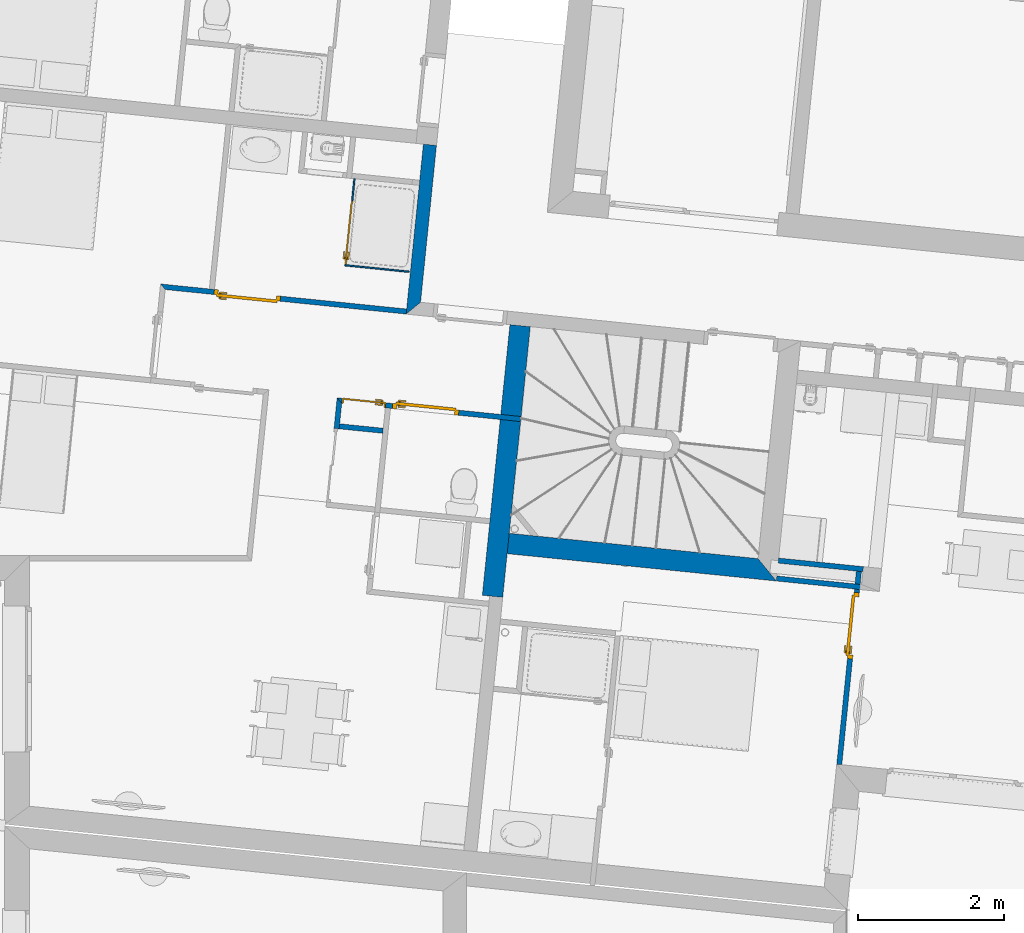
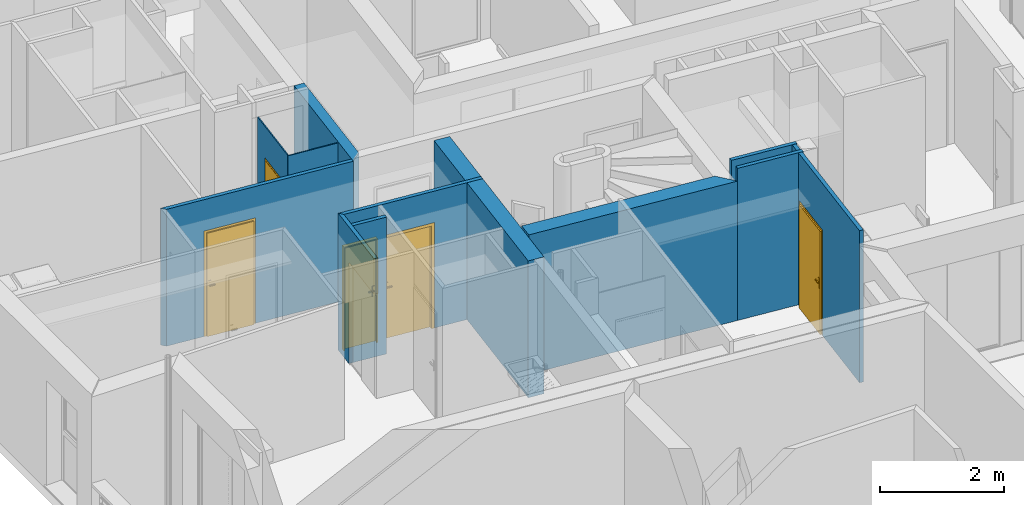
# One storey, part 64 of 171: 12 walls, 5 doors, 6 openings.
"""IFC2X3 building model written with IfcOpenShell, lengths in millimetres."""

from ifc_helpers import new_model, entity, si_unit, converted_unit, derived_unit, money_unit, direction, frame, origin_with_axes, origin_2d_with_axis, place, context, subcontext, project, spatial, polyline, rectangle, outline, extrude, faceted_brep, source, transform, mapped, material, layer, layer_set, layer_usage, type_object, element, fill, save


model = new_model("IFC2X3")

# Units and contexts
model_context = context("Model", 3, precision=0.01, world=origin_with_axes(), true_north=direction((0.0, 1.0)))
body_context = subcontext(model_context, "Body", "Model", "MODEL_VIEW")
ifc_project = project(units=[si_unit("LENGTHUNIT", "METRE", prefix="MILLI"), si_unit("AREAUNIT", "SQUARE_METRE"), si_unit("VOLUMEUNIT", "CUBIC_METRE"), converted_unit("PLANEANGLEUNIT", "DEGREE", entity("IfcPlaneAngleMeasure", 0.0174532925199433), si_unit("PLANEANGLEUNIT", "RADIAN"), dimensions=[0, 0, 0, 0, 0, 0, 0]), money_unit("USD"), converted_unit("TIMEUNIT", "Year", entity("IfcTimeMeasure", 31557600.0), si_unit("TIMEUNIT", "SECOND"), dimensions=[0, 0, 1, 0, 0, 0, 0]), si_unit("MASSUNIT", "GRAM", prefix="KILO"), si_unit("THERMODYNAMICTEMPERATUREUNIT", "DEGREE_CELSIUS"), si_unit("LUMINOUSINTENSITYUNIT", "LUMEN"), si_unit("ENERGYUNIT", "JOULE", prefix="MEGA"), derived_unit("THERMALCONDUCTANCEUNIT", [(si_unit("POWERUNIT", "WATT"), 1), (si_unit("LENGTHUNIT", "METRE"), -1), (si_unit("THERMODYNAMICTEMPERATUREUNIT", "KELVIN"), -1)]), derived_unit("SPECIFICHEATCAPACITYUNIT", [(si_unit("ENERGYUNIT", "JOULE"), 1), (si_unit("MASSUNIT", "GRAM", prefix="KILO"), -1), (si_unit("THERMODYNAMICTEMPERATUREUNIT", "KELVIN"), -1)]), derived_unit("MASSDENSITYUNIT", [(si_unit("MASSUNIT", "GRAM", prefix="KILO"), 1), (si_unit("VOLUMEUNIT", "CUBIC_METRE"), -1)])], contexts=[model_context])

# Site, building, storey
site_placement = place(None, origin_with_axes())
site = spatial("IfcSite", under=ifc_project, at=site_placement, Name="Site", CompositionType="ELEMENT")
building_placement = place(site_placement, origin_with_axes())
building = spatial("IfcBuilding", under=site, at=building_placement, Name="Bâtiment", CompositionType="ELEMENT")
storey_placement = place(building_placement, frame((0.0, 0.0, 3000.0), z_axis=(0.0, 0.0, 1.0), x_axis=(1.0, 0.0, 0.0)))
storey = spatial("IfcBuildingStorey", under=building, at=storey_placement, Name="rdc", CompositionType="ELEMENT", Elevation=3000.0)

# Wall
ifc_material_1 = material(Name="Hachure solide 268963992")
ifc_layer_1 = layer(ifc_material_1, 70.0, ventilated="UNKNOWN")
ifc_layer_set_1 = layer_set([ifc_layer_1], Name="Cloison 70 0826278243")
ifc_layer_usage_1 = layer_usage(ifc_layer_set_1, "AXIS2", "NEGATIVE", 0.0)
wall_type_1 = type_object("IfcWallType", Name="Cloison 70 0826278243 70", PredefinedType="NOTDEFINED")
wall_1_placement = place(storey_placement, frame((2229849.338123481, -617632.4873157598, 0.0), z_axis=(0.0, 0.0, 1.0), x_axis=(-0.9948733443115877, 0.1011287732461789, 0.0)))
element("IfcWallStandardCase", 1, at=wall_1_placement, inside=storey, type_object=wall_type_1, material=ifc_layer_usage_1, Name="Mur-121", context=body_context, shape_type="SweptSolid", body=[
    extrude(outline(polyline([(-1.13686837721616e-10, -70.00000000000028), (1164.857956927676, -70.00000000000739), (1164.857956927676, 0.0), (0.0, 0.0), (-1.13686837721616e-10, -70.00000000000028)])), origin_with_axes(), (0.0, 0.0, 1.0), 3000.0),
])

# Wall, opening
ifc_layer_usage_2 = layer_usage(ifc_layer_set_1, "AXIS2", "POSITIVE", -70.0)
wall_2_placement = place(storey_placement, frame((2222752.519479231, -615015.4801485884, 0.0), z_axis=(0.0, 0.0, 1.0), x_axis=(-0.1011032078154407, -0.9948759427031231, 0.0)))
wall_2 = element("IfcWallStandardCase", 2, at=wall_2_placement, inside=storey, type_object=wall_type_1, material=ifc_layer_usage_2, Name="Mur-149", context=body_context, shape_type="SweptSolid", body=[
    extrude(outline(polyline([(-1.003314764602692e-06, -69.99999999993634), (1408.251999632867, -69.99999999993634), (1408.251999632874, 1.13686837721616e-10), (69.99999999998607, 1.13686837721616e-10), (-1.003314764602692e-06, -69.99999999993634)])), origin_with_axes(), (0.0, 0.0, 1.0), 2700.0),
])
opening_1_placement = place(wall_2_placement, frame((926.5441917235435, 0.0, 0.0), z_axis=(0.0, 0.0, 1.0), x_axis=(1.0, 0.0, 0.0)))
element("IfcOpeningElement", 3, at=opening_1_placement, cuts=wall_2, Name="Por-254", context=body_context, shape_type="SweptSolid", body=[
    extrude(rectangle(XDim=1013.088383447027, YDim=2000.0, at=origin_2d_with_axis()), frame((0.0, -70.00000000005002, 1000.0), z_axis=(0.0, 1.0, 0.0), x_axis=(1.0, 0.0, 0.0)), (0.0, 0.0, -1.0), 70.0),
    extrude(rectangle(XDim=1013.088383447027, YDim=2000.0, at=origin_2d_with_axis()), frame((0.0, -69.99999999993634, 1000.0), z_axis=(0.0, -1.0, 0.0), x_axis=(1.0, 0.0, 0.0)), (0.0, 0.0, -1.0), 70.0),
])

# Wall, openings, doors
ifc_layer_usage_3 = layer_usage(ifc_layer_set_1, "AXIS2", "NEGATIVE", 70.0)
wall_3_placement = place(storey_placement, frame((2225199.940594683, -615264.1967475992, 0.0), z_axis=(0.0, 0.0, 1.0), x_axis=(-0.9948759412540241, 0.1011032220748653, 0.0)))
wall_3 = element("IfcWallStandardCase", 4, at=wall_3_placement, inside=storey, type_object=wall_type_1, material=ifc_layer_usage_3, Name="Mur-149", context=body_context, shape_type="SweptSolid", body=[
    extrude(outline(polyline([(0.0, 0.0), (2530.026435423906, 0.0), (2460.026434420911, 70.00000000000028), (0.0, 70.00000000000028), (0.0, 0.0)])), origin_with_axes(), (0.0, 0.0, 1.0), 2700.0),
])
opening_2_placement = place(wall_3_placement, frame((1309.999999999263, 0.0, 0.0), z_axis=(0.0, 0.0, 1.0), x_axis=(1.0, 0.0, 0.0)))
opening_2 = element("IfcOpeningElement", 5, at=opening_2_placement, cuts=wall_3, Name="Por-281", context=body_context, shape_type="SweptSolid", body=[
    extrude(rectangle(XDim=910.0000000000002, YDim=2080.0, at=origin_2d_with_axis()), frame((-1.13686837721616e-10, 69.99999999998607, 1040.0), z_axis=(0.0, -1.0, 0.0), x_axis=(-1.0, 0.0, 0.0)), (0.0, 0.0, 1.0), 140.0),
])
opening_3_placement = place(wall_3_placement, frame((2160.026437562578, 0.0, 0.0), z_axis=(0.0, 0.0, 1.0), x_axis=(1.0, 0.0, 0.0)))
opening_3 = element("IfcOpeningElement", 6, at=opening_3_placement, cuts=wall_3, Name="Por-274", context=body_context, shape_type="SweptSolid", body=[
    extrude(rectangle(XDim=600.0000000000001, YDim=2050.0, at=origin_2d_with_axis()), frame((0.0, 70.00000000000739, 1025.0), z_axis=(0.0, 1.0, 0.0), x_axis=(1.0, 0.0, 0.0)), (0.0, 0.0, -1.0), 140.0),
])
door_style = type_object("IfcDoorStyle", Name="Porte_1v", ConstructionType="NOTDEFINED", OperationType="NOTDEFINED", ParameterTakesPrecedence=False, Sizeable=False)
shared_shape_1 = source(origin_with_axes(), body_context, "Body", "Brep", [
    faceted_brep([(455.0, 0.0, 0.0), (415.0000000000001, 0.0, 0.0), (415.0000000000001, 0.0, 2040.0), (-415.0000000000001, 0.0, 2040.0), (-415.0000000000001, 0.0, 0.0), (-455.0, 0.0, 0.0), (-455.0, 0.0, 2080.0), (455.0, 0.0, 2080.0), (455.0, -70.0, 0.0), (400.0, -70.0, 0.0), (400.0, -15.0, 0.0), (415.0000000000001, -15.0, 0.0), (415.0000000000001, -15.0, 2040.0), (-415.0000000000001, -15.0, 2040.0), (-415.0000000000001, -15.0, 0.0), (-400.0, -15.0, 0.0), (-400.0, -70.0, 0.0), (-455.0, -70.0, 0.0), (-455.0, -70.0, 2080.0), (455.0, -70.0, 2080.0), (-400.0, -70.0, 2025.0), (400.0, -70.0, 2025.0), (400.0, -15.0, 2025.0), (-400.0, -15.0, 2025.0)], [[[0, 1, 2, 3, 4, 5, 6, 7]], [[0, 8, 9, 10, 11, 1]], [[1, 11, 12, 2]], [[2, 12, 13, 3]], [[3, 13, 14, 4]], [[5, 4, 14, 15, 16, 17]], [[18, 6, 5, 17]], [[19, 7, 6, 18]], [[8, 0, 7, 19]], [[9, 8, 19, 18, 17, 16, 20, 21]], [[10, 9, 21, 22]], [[11, 10, 22, 23, 15, 14, 13, 12]], [[23, 20, 16, 15]], [[22, 21, 20, 23]]]),
    faceted_brep([(-350.0000000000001, -15.0, 900.0), (-390.0, -15.0, 900.0), (-390.0, -15.0, 1100.0), (-350.0000000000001, -15.0, 1100.0), (-350.0000000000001, -25.0, 900.0), (-390.0, -25.0, 900.0), (-390.0, -25.0, 1100.0), (-350.0000000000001, -25.0, 1100.0)], [[[0, 1, 2, 3]], [[1, 0, 4, 5]], [[2, 1, 5, 6]], [[3, 2, 6, 7]], [[0, 3, 7, 4]], [[5, 4, 7, 6]]]),
    faceted_brep([(-280.0, -25.0, 1000.0), (-380.0, -25.0, 1000.0), (-380.0, -25.0, 1020.0), (-280.0, -25.0, 1020.0), (-280.0, -45.0, 1000.0), (-380.0, -45.0, 1000.0), (-380.0, -45.0, 1020.0), (-280.0, -45.0, 1020.0)], [[[0, 1, 2, 3]], [[1, 0, 4, 5]], [[2, 1, 5, 6]], [[3, 2, 6, 7]], [[0, 3, 7, 4]], [[5, 4, 7, 6]]]),
    faceted_brep([(-350.0000000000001, 35.0, 900.0), (-390.0, 35.0, 900.0), (-390.0, 35.0, 1100.0), (-350.0000000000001, 35.0, 1100.0), (-350.0000000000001, 25.0, 900.0), (-390.0, 25.0, 900.0), (-390.0, 25.0, 1100.0), (-350.0000000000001, 25.0, 1100.0)], [[[0, 1, 2, 3]], [[1, 0, 4, 5]], [[2, 1, 5, 6]], [[3, 2, 6, 7]], [[0, 3, 7, 4]], [[5, 4, 7, 6]]]),
    faceted_brep([(-280.0, 55.00000000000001, 1000.0), (-380.0, 55.00000000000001, 1000.0), (-380.0, 55.00000000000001, 1020.0), (-280.0, 55.00000000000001, 1020.0), (-280.0, 35.0, 1000.0), (-380.0, 35.0, 1000.0), (-380.0, 35.0, 1020.0), (-280.0, 35.0, 1020.0)], [[[0, 1, 2, 3]], [[1, 0, 4, 5]], [[2, 1, 5, 6]], [[3, 2, 6, 7]], [[0, 3, 7, 4]], [[5, 4, 7, 6]]]),
    faceted_brep([(-415.0000000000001, 25.0, 0.0), (415.0000000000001, 25.0, 0.0), (415.0000000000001, -15.0, 0.0), (-415.0000000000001, -15.0, 0.0), (-415.0000000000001, 25.0, 2040.0), (415.0000000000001, 25.0, 2040.0), (415.0000000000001, -15.0, 2040.0), (-415.0000000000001, -15.0, 2040.0)], [[[0, 1, 2, 3]], [[0, 4, 5, 1]], [[1, 5, 6, 2]], [[3, 2, 6, 7]], [[4, 0, 3, 7]], [[5, 4, 7, 6]]]),
])
door_1_placement = place(opening_2_placement, frame((415.000000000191, 0.0, 0.0), z_axis=(0.0, 0.0, 1.0), x_axis=(-1.0, 0.0, 0.0)))
door_1 = element("IfcDoor", 7, at=door_1_placement, inside=storey, type_object=door_style, Name="Por-281", OverallHeight=2040.0, OverallWidth=830.0, context=body_context, shape_type="MappedRepresentation", body=[
    mapped(shared_shape_1, transform((415.0000000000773, 0.0, 0.0))),
])
fill(opening_2, door_1)
shared_shape_2 = source(origin_with_axes(), body_context, "Body", "Brep", [
    faceted_brep([(-300.0, 0.0, 0.0), (-300.0, 0.0, 2050.0), (300.0, 0.0, 2050.0), (300.0, 0.0, 0.0), (290.0, 0.0, 0.0), (290.0, 0.0, 2040.0), (-290.0, 0.0, 2040.0), (-290.0, 0.0, 0.0), (-300.0, -70.0, 0.0), (-300.0, -70.0, 2050.0), (300.0, -70.0, 2050.0), (300.0, -70.0, 0.0), (279.9999999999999, -70.0, 0.0), (279.9999999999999, -15.0, 0.0), (290.0, -15.0, 0.0), (290.0, -15.0, 2040.0), (-290.0, -15.0, 2040.0), (-290.0, -15.0, 0.0), (-279.9999999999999, -15.0, 0.0), (-279.9999999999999, -70.0, 0.0), (-279.9999999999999, -70.0, 2030.0), (279.9999999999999, -70.0, 2030.0), (279.9999999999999, -15.0, 2030.0), (-279.9999999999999, -15.0, 2030.0)], [[[0, 1, 2, 3, 4, 5, 6, 7]], [[8, 9, 1, 0]], [[9, 10, 2, 1]], [[10, 11, 3, 2]], [[3, 11, 12, 13, 14, 4]], [[5, 4, 14, 15]], [[6, 5, 15, 16]], [[7, 6, 16, 17]], [[0, 7, 17, 18, 19, 8]], [[19, 20, 21, 12, 11, 10, 9, 8]], [[22, 13, 12, 21]], [[17, 16, 15, 14, 13, 22, 23, 18]], [[18, 23, 20, 19]], [[23, 22, 21, 20]]]),
    faceted_brep([(224.9999999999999, -15.0, 900.0), (224.9999999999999, -15.0, 1100.0), (264.9999999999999, -15.0, 1100.0), (264.9999999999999, -15.0, 900.0), (224.9999999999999, -25.0, 900.0), (224.9999999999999, -25.0, 1100.0), (264.9999999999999, -25.0, 1100.0), (264.9999999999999, -25.0, 900.0)], [[[0, 1, 2, 3]], [[0, 4, 5, 1]], [[1, 5, 6, 2]], [[2, 6, 7, 3]], [[3, 7, 4, 0]], [[7, 6, 5, 4]]]),
    faceted_brep([(154.9999999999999, -25.0, 1000.0), (154.9999999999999, -25.0, 1020.0), (254.9999999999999, -25.0, 1020.0), (254.9999999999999, -25.0, 1000.0), (154.9999999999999, -45.0, 1000.0), (154.9999999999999, -45.0, 1020.0), (254.9999999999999, -45.0, 1020.0), (254.9999999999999, -45.0, 1000.0)], [[[0, 1, 2, 3]], [[0, 4, 5, 1]], [[1, 5, 6, 2]], [[2, 6, 7, 3]], [[3, 7, 4, 0]], [[7, 6, 5, 4]]]),
    faceted_brep([(224.9999999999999, 15.0, 900.0), (224.9999999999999, 15.0, 1100.0), (264.9999999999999, 15.0, 1100.0), (264.9999999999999, 15.0, 900.0), (224.9999999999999, 5.000000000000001, 900.0), (224.9999999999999, 5.000000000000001, 1100.0), (264.9999999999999, 5.000000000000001, 1100.0), (264.9999999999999, 5.000000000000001, 900.0)], [[[0, 1, 2, 3]], [[0, 4, 5, 1]], [[1, 5, 6, 2]], [[2, 6, 7, 3]], [[3, 7, 4, 0]], [[7, 6, 5, 4]]]),
    faceted_brep([(154.9999999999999, 35.0, 1000.0), (154.9999999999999, 35.0, 1020.0), (254.9999999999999, 35.0, 1020.0), (254.9999999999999, 35.0, 1000.0), (154.9999999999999, 15.0, 1000.0), (154.9999999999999, 15.0, 1020.0), (254.9999999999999, 15.0, 1020.0), (254.9999999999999, 15.0, 1000.0)], [[[0, 1, 2, 3]], [[0, 4, 5, 1]], [[1, 5, 6, 2]], [[2, 6, 7, 3]], [[3, 7, 4, 0]], [[7, 6, 5, 4]]]),
    faceted_brep([(290.0, 5.000000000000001, 0.0), (290.0, -15.0, 0.0), (-290.0, -15.0, 0.0), (-290.0, 5.000000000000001, 0.0), (290.0, 5.000000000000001, 2040.0), (290.0, -15.0, 2040.0), (-290.0, -15.0, 2040.0), (-290.0, 5.000000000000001, 2040.0)], [[[0, 1, 2, 3]], [[4, 5, 1, 0]], [[1, 5, 6, 2]], [[3, 2, 6, 7]], [[0, 3, 7, 4]], [[7, 6, 5, 4]]]),
])
door_2_placement = place(opening_3_placement, frame((290.0000000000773, 0.0, 0.0), z_axis=(0.0, 0.0, 1.0), x_axis=(-1.0, 0.0, 0.0)))
door_2 = element("IfcDoor", 8, at=door_2_placement, inside=storey, type_object=door_style, Name="Por-274", OverallHeight=2040.0, OverallWidth=580.0, context=body_context, shape_type="MappedRepresentation", body=[
    mapped(shared_shape_2, transform((290.0000000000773, 0.0, 0.0))),
])
fill(opening_3, door_2)

# Wall, opening, door
ifc_layer_usage_4 = layer_usage(ifc_layer_set_1, "AXIS2", "POSITIVE", -70.0)
wall_4_placement = place(storey_placement, frame((2223626.274787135, -613863.2153341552, 0.0), z_axis=(0.0, 0.0, 1.0), x_axis=(-0.9948688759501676, 0.1011727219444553, 0.0)))
wall_4 = element("IfcWallStandardCase", 9, at=wall_4_placement, inside=storey, type_object=wall_type_1, material=ifc_layer_usage_4, Name="Mur-149", context=body_context, shape_type="SweptSolid", body=[
    extrude(outline(polyline([(0.0, -70.00000000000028), (3383.001207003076, -69.99999999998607), (3313.001236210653, 0.0), (0.0, 0.0), (0.0, -70.00000000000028)])), origin_with_axes(), (0.0, 0.0, 1.0), 2700.0),
])
opening_4_placement = place(wall_4_placement, frame((2188.000796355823, 0.0, 0.0), z_axis=(0.0, 0.0, 1.0), x_axis=(1.0, 0.0, 0.0)))
opening_4 = element("IfcOpeningElement", 10, at=opening_4_placement, cuts=wall_4, Name="Por-280", context=body_context, shape_type="SweptSolid", body=[
    extrude(rectangle(XDim=909.9999999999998, YDim=2080.0, at=origin_2d_with_axis()), frame((2.273736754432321e-10, -69.99999999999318, 1040.0), z_axis=(0.0, -1.0, 0.0), x_axis=(-1.0, 0.0, 0.0)), (0.0, 0.0, -1.0), 140.0),
])
shared_shape_3 = source(origin_with_axes(), body_context, "Body", "Brep", [
    faceted_brep([(-454.9999999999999, 0.0, 0.0), (-454.9999999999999, 0.0, 2080.0), (454.9999999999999, 0.0, 2080.0), (454.9999999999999, 0.0, 0.0), (414.9999999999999, 0.0, 0.0), (414.9999999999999, 0.0, 2040.0), (-414.9999999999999, 0.0, 2040.0), (-414.9999999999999, 0.0, 0.0), (-454.9999999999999, -69.99999999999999, 0.0), (-454.9999999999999, -69.99999999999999, 2080.0), (454.9999999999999, -69.99999999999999, 2080.0), (454.9999999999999, -69.99999999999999, 0.0), (399.9999999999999, -69.99999999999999, 0.0), (399.9999999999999, -15.0, 0.0), (414.9999999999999, -15.0, 0.0), (414.9999999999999, -15.0, 2040.0), (-414.9999999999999, -14.99999999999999, 2040.0), (-414.9999999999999, -14.99999999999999, 0.0), (-399.9999999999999, -14.99999999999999, 0.0), (-399.9999999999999, -69.99999999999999, 0.0), (-399.9999999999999, -69.99999999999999, 2025.0), (399.9999999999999, -69.99999999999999, 2025.0), (399.9999999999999, -15.0, 2025.0), (-399.9999999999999, -14.99999999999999, 2025.0)], [[[0, 1, 2, 3, 4, 5, 6, 7]], [[8, 9, 1, 0]], [[9, 10, 2, 1]], [[10, 11, 3, 2]], [[3, 11, 12, 13, 14, 4]], [[5, 4, 14, 15]], [[6, 5, 15, 16]], [[7, 6, 16, 17]], [[0, 7, 17, 18, 19, 8]], [[19, 20, 21, 12, 11, 10, 9, 8]], [[22, 13, 12, 21]], [[17, 16, 15, 14, 13, 22, 23, 18]], [[18, 23, 20, 19]], [[23, 22, 21, 20]]]),
    faceted_brep([(350.0, -15.0, 900.0), (350.0, -15.0, 1100.0), (389.9999999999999, -15.0, 1100.0), (389.9999999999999, -15.0, 900.0), (350.0, -25.0, 900.0), (350.0, -25.0, 1100.0), (389.9999999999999, -25.0, 1100.0), (389.9999999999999, -25.0, 900.0)], [[[0, 1, 2, 3]], [[0, 4, 5, 1]], [[1, 5, 6, 2]], [[2, 6, 7, 3]], [[3, 7, 4, 0]], [[7, 6, 5, 4]]]),
    faceted_brep([(279.9999999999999, -25.0, 1000.0), (279.9999999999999, -25.0, 1020.0), (379.9999999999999, -25.0, 1020.0), (379.9999999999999, -25.0, 1000.0), (279.9999999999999, -45.0, 1000.0), (279.9999999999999, -45.0, 1020.0), (379.9999999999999, -45.0, 1020.0), (379.9999999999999, -45.0, 1000.0)], [[[0, 1, 2, 3]], [[0, 4, 5, 1]], [[1, 5, 6, 2]], [[2, 6, 7, 3]], [[3, 7, 4, 0]], [[7, 6, 5, 4]]]),
    faceted_brep([(350.0, 34.99999999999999, 900.0), (350.0, 34.99999999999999, 1100.0), (389.9999999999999, 34.99999999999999, 1100.0), (389.9999999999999, 34.99999999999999, 900.0), (350.0, 24.99999999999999, 900.0), (350.0, 24.99999999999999, 1100.0), (389.9999999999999, 24.99999999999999, 1100.0), (389.9999999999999, 24.99999999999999, 900.0)], [[[0, 1, 2, 3]], [[0, 4, 5, 1]], [[1, 5, 6, 2]], [[2, 6, 7, 3]], [[3, 7, 4, 0]], [[7, 6, 5, 4]]]),
    faceted_brep([(279.9999999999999, 54.99999999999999, 1000.0), (279.9999999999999, 54.99999999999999, 1020.0), (379.9999999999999, 54.99999999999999, 1020.0), (379.9999999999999, 54.99999999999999, 1000.0), (279.9999999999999, 34.99999999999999, 1000.0), (279.9999999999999, 34.99999999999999, 1020.0), (379.9999999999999, 34.99999999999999, 1020.0), (379.9999999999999, 34.99999999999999, 1000.0)], [[[0, 1, 2, 3]], [[0, 4, 5, 1]], [[1, 5, 6, 2]], [[2, 6, 7, 3]], [[3, 7, 4, 0]], [[7, 6, 5, 4]]]),
    faceted_brep([(414.9999999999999, 24.99999999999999, 0.0), (414.9999999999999, -15.0, 0.0), (-414.9999999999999, -14.99999999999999, 0.0), (-414.9999999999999, 25.0, 0.0), (414.9999999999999, 24.99999999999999, 2040.0), (414.9999999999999, -15.0, 2040.0), (-414.9999999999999, -14.99999999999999, 2040.0), (-414.9999999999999, 25.0, 2040.0)], [[[0, 1, 2, 3]], [[4, 5, 1, 0]], [[1, 5, 6, 2]], [[3, 2, 6, 7]], [[0, 3, 7, 4]], [[7, 6, 5, 4]]]),
])
door_3_placement = place(opening_4_placement, frame((-415.0000000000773, 0.0, 0.0), z_axis=(0.0, 0.0, 1.0), x_axis=(1.0, 0.0, 0.0)))
door_3 = element("IfcDoor", 11, at=door_3_placement, inside=storey, type_object=door_style, Name="Por-280", OverallHeight=2040.0, OverallWidth=830.0, context=body_context, shape_type="MappedRepresentation", body=[
    mapped(shared_shape_3, transform((414.9999999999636, 0.0, 0.0))),
])
fill(opening_4, door_3)

ifc_layer_usage_5 = layer_usage(ifc_layer_set_1, "AXIS2", "POSITIVE", 0.0)
wall_5_placement = place(storey_placement, frame((2229784.599182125, -617378.4179479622, 0.0), z_axis=(0.0, 0.0, 1.0), x_axis=(-0.1010678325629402, -0.9948795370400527, 0.0)))
wall_5 = element("IfcWallStandardCase", 12, at=wall_5_placement, inside=storey, type_object=wall_type_1, material=ifc_layer_usage_5, Name="Mur-153", context=body_context, shape_type="SweptSolid", body=[
    extrude(outline(polyline([(0.0, 0.0), (2655.134623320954, 0.0), (2655.134623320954, 70.00000000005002), (0.002490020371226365, 70.00000000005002), (0.0, 0.0)])), origin_with_axes(), (0.0, 0.0, 1.0), 3000.0),
])
opening_5_placement = place(wall_5_placement, frame((747.8518474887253, -1.13686837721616e-10, 0.0), z_axis=(0.0, 0.0, 1.0), x_axis=(1.0, 0.0, 0.0)))
opening_5 = element("IfcOpeningElement", 13, at=opening_5_placement, cuts=wall_5, Name="Por-278", context=body_context, shape_type="SweptSolid", body=[
    extrude(rectangle(XDim=909.9999999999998, YDim=2080.0, at=origin_2d_with_axis()), frame((0.0, 69.99999999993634, 1040.0), z_axis=(0.0, -1.0, 0.0), x_axis=(-1.0, 0.0, 0.0)), (0.0, 0.0, 1.0), 140.0),
])
door_4_placement = place(opening_5_placement, frame((414.9999999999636, 1.13686837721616e-10, 0.0), z_axis=(0.0, 0.0, 1.0), x_axis=(-1.0, 0.0, 0.0)))
door_4 = element("IfcDoor", 14, at=door_4_placement, inside=storey, type_object=door_style, Name="Por-278", OverallHeight=2040.0, OverallWidth=830.0, context=body_context, shape_type="MappedRepresentation", body=[
    mapped(shared_shape_1, transform((414.9999999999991, 0.0, 0.0))),
])
fill(opening_5, door_4)

# Walls
ifc_layer_usage_6 = layer_usage(ifc_layer_set_1, "AXIS2", "POSITIVE", -70.0)
wall_6_placement = place(storey_placement, frame((2223376.622996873, -615501.0672017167, 0.0), z_axis=(0.0, 0.0, 1.0), x_axis=(-0.9948759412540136, 0.10110322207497, 0.0)))
element("IfcWallStandardCase", 15, at=wall_6_placement, inside=storey, type_object=wall_type_1, material=ifc_layer_usage_6, Name="Mur-149", context=body_context, shape_type="SweptSolid", body=[
    extrude(outline(polyline([(70.000000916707, -69.99999999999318), (669.9999852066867, -69.99999999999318), (669.9999842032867, 0.0), (70.00000305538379, 0.0), (70.000000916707, -69.99999999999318)])), origin_with_axes(), (0.0, 0.0, 1.0), 2700.0),
])
ifc_layer_usage_7 = layer_usage(ifc_layer_set_1, "AXIS2", "POSITIVE", 0.0)
wall_7_placement = place(storey_placement, frame((2228715.342857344, -617269.755897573, 0.0), z_axis=(0.0, 0.0, 1.0), x_axis=(0.9948759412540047, -0.1011032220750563, 0.0)))
element("IfcWallStandardCase", 16, at=wall_7_placement, inside=storey, type_object=wall_type_1, material=ifc_layer_usage_7, Name="Mur-152", context=body_context, shape_type="SweptSolid", body=[
    extrude(outline(polyline([(0.0, 0.0), (1164.857923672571, 0.0), (1164.857923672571, 70.00000000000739), (-1.13686837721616e-10, 70.00000000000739), (0.0, 0.0)])), origin_with_axes(), (0.0, 0.0, 1.0), 3000.0),
])
ifc_material_2 = material(Name="Parpaing 312445824")
ifc_layer_2 = layer(ifc_material_2, 180.0, ventilated="UNKNOWN")
ifc_material_3 = material(Name="Isolant styromousse 301821074")
ifc_layer_3 = layer(ifc_material_3, 100.0, ventilated="UNKNOWN")
ifc_layer_set_2 = layer_set([ifc_layer_2, ifc_layer_3], Name="isol int 18+10 0018356637")
ifc_layer_usage_8 = layer_usage(ifc_layer_set_2, "AXIS2", "NEGATIVE", 0.0)
wall_type_2 = type_object("IfcWallType", Name="isol int 18+10 0018356637 280", PredefinedType="NOTDEFINED")
wall_8_placement = place(storey_placement, frame((2225036.755474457, -616861.9413982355, 0.0), z_axis=(0.0, 0.0, 1.0), x_axis=(0.9948759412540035, -0.1011032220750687, 0.0)))
element("IfcWallStandardCase", 17, at=wall_8_placement, inside=storey, type_object=wall_type_2, material=ifc_layer_usage_8, Name="Mur-142", context=body_context, shape_type="SweptSolid", body=[
    extrude(outline(polyline([(-0.07279868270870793, -280.0000000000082), (3701.157679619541, -280.0000000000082), (3421.157679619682, 0.0), (0.0, 0.0), (-0.07279868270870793, -280.0000000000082)])), origin_with_axes(), (0.0, 0.0, 1.0), 2750.0),
])
ifc_layer_usage_9 = layer_usage(ifc_layer_set_2, "AXIS2", "NEGATIVE", 0.0)
wall_9_placement = place(storey_placement, frame((2225342.945027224, -613856.7430391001, 0.0), z_axis=(0.0, 0.0, 1.0), x_axis=(-0.1013618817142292, -0.9948496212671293, 0.0)))
element("IfcWallStandardCase", 18, at=wall_9_placement, inside=storey, type_object=wall_type_2, material=ifc_layer_usage_9, Name="Mur-142", context=body_context, shape_type="SweptSolid", body=[
    extrude(outline(polyline([(180.0728047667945, -279.9999999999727), (3900.829559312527, -280.0000000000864), (3900.755571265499, 0.0), (180.0000060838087, 0.0), (180.0728047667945, -279.9999999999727)])), origin_with_axes(), (0.0, 0.0, 1.0), 2700.0),
])
ifc_layer_4 = layer(ifc_material_2, 180.0, ventilated="UNKNOWN")
ifc_layer_set_3 = layer_set([ifc_layer_4], Name="Beton  18 0836643197")
ifc_layer_usage_10 = layer_usage(ifc_layer_set_3, "AXIS2", "NEGATIVE", 0.0)
wall_type_3 = type_object("IfcWallType", Name="Beton  18 0836643197 180", PredefinedType="NOTDEFINED")
wall_10_placement = place(storey_placement, frame((2224041.596288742, -611556.7271089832, 0.0), z_axis=(0.0, 0.0, 1.0), x_axis=(-0.1011032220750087, -0.9948759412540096, 0.0)))
element("IfcWallStandardCase", 19, at=wall_10_placement, inside=storey, type_object=wall_type_3, material=ifc_layer_usage_10, Name="Mur-142", context=body_context, shape_type="SweptSolid", body=[
    extrude(outline(polyline([(0.0, -180.0000000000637), (2336.659962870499, -180.0000000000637), (2156.659962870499, -1.13686837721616e-10), (0.0, 0.0), (0.0, -180.0000000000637)])), origin_with_axes(), (0.0, 0.0, 1.0), 2700.0),
])

# Wall, opening, door
ifc_material_4 = material(Name="Empty Fill 292498448")
ifc_layer_5 = layer(ifc_material_4, 20.0, ventilated="UNKNOWN")
ifc_layer_set_4 = layer_set([ifc_layer_5], Name="mur 2cm")
ifc_layer_usage_11 = layer_usage(ifc_layer_set_4, "AXIS2", "POSITIVE", -20.0)
wall_type_4 = type_object("IfcWallType", Name="mur 2cm 20", PredefinedType="NOTDEFINED")
wall_11_placement = place(storey_placement, frame((2222790.450662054, -613185.3094681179, 0.0), z_axis=(0.0, 0.0, 1.0), x_axis=(0.101170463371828, 0.9948691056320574, 0.0)))
wall_11 = element("IfcWallStandardCase", 20, at=wall_11_placement, inside=storey, type_object=wall_type_4, material=ifc_layer_usage_11, Name="Mur-148", context=body_context, shape_type="SweptSolid", body=[
    extrude(outline(polyline([(0.0, -19.99999999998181), (1180.110441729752, -19.99999999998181), (1180.110441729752, 0.0), (0.0, 0.0), (0.0, -19.99999999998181)])), origin_with_axes(), (0.0, 0.0, 1.0), 2700.0),
])
opening_6_placement = place(wall_11_placement, frame((440.0000000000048, 0.0, 0.0), z_axis=(0.0, 0.0, 1.0), x_axis=(1.0, 0.0, 0.0)))
opening_6 = element("IfcOpeningElement", 21, at=opening_6_placement, cuts=wall_11, Name="Por-288", context=body_context, shape_type="SweptSolid", body=[
    extrude(rectangle(XDim=880.0000119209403, YDim=2080.0, at=origin_2d_with_axis()), frame((5.960465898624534e-06, -19.99999999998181, 1040.0), z_axis=(0.0, 1.0, 0.0), x_axis=(1.0, 0.0, 0.0)), (0.0, 0.0, 1.0), 40.0),
])
shared_shape_4 = source(origin_with_axes(), body_context, "Body", "Brep", [
    faceted_brep([(440.0, 0.0, 0.0), (400.0, 0.0, 0.0), (400.0, 0.0, 2040.0), (-400.0, 0.0, 2040.0), (-400.0, 0.0, 0.0), (-440.0, 0.0, 0.0), (-440.0, 0.0, 2080.0), (440.0, 0.0, 2080.0), (440.0, -20.0, 0.0), (385.0, -20.0, 0.0), (385.0, -15.0, 0.0), (400.0, -15.0, 0.0), (400.0, -15.0, 2040.0), (-400.0, -15.0, 2040.0), (-400.0, -15.0, 0.0), (-385.0, -15.0, 0.0), (-385.0, -20.0, 0.0), (-440.0, -20.0, 0.0), (-440.0, -20.0, 2080.0), (440.0, -20.0, 2080.0), (-385.0, -20.0, 2025.0), (385.0, -20.0, 2025.0), (385.0, -15.0, 2025.0), (-385.0, -15.0, 2025.0)], [[[0, 1, 2, 3, 4, 5, 6, 7]], [[0, 8, 9, 10, 11, 1]], [[1, 11, 12, 2]], [[2, 12, 13, 3]], [[3, 13, 14, 4]], [[5, 4, 14, 15, 16, 17]], [[18, 6, 5, 17]], [[19, 7, 6, 18]], [[8, 0, 7, 19]], [[9, 8, 19, 18, 17, 16, 20, 21]], [[10, 9, 21, 22]], [[11, 10, 22, 23, 15, 14, 13, 12]], [[23, 20, 16, 15]], [[22, 21, 20, 23]]]),
    faceted_brep([(-335.0, -15.0, 900.0), (-375.0, -15.0, 900.0), (-375.0, -15.0, 1100.0), (-335.0, -15.0, 1100.0), (-335.0, -25.0, 900.0), (-375.0, -25.0, 900.0), (-375.0, -25.0, 1100.0), (-335.0, -25.0, 1100.0)], [[[0, 1, 2, 3]], [[1, 0, 4, 5]], [[2, 1, 5, 6]], [[3, 2, 6, 7]], [[0, 3, 7, 4]], [[5, 4, 7, 6]]]),
    faceted_brep([(-265.0, -25.0, 1000.0), (-365.0, -25.0, 1000.0), (-365.0, -25.0, 1020.0), (-265.0, -25.0, 1020.0), (-265.0, -45.0, 1000.0), (-365.0, -45.0, 1000.0), (-365.0, -45.0, 1020.0), (-265.0, -45.0, 1020.0)], [[[0, 1, 2, 3]], [[1, 0, 4, 5]], [[2, 1, 5, 6]], [[3, 2, 6, 7]], [[0, 3, 7, 4]], [[5, 4, 7, 6]]]),
    faceted_brep([(-335.0, 15.0, 900.0), (-375.0, 15.0, 900.0), (-375.0, 15.0, 1100.0), (-335.0, 15.0, 1100.0), (-335.0, 5.000000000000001, 900.0), (-375.0, 5.000000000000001, 900.0), (-375.0, 5.000000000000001, 1100.0), (-335.0, 5.000000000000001, 1100.0)], [[[0, 1, 2, 3]], [[1, 0, 4, 5]], [[2, 1, 5, 6]], [[3, 2, 6, 7]], [[0, 3, 7, 4]], [[5, 4, 7, 6]]]),
    faceted_brep([(-265.0, 35.0, 1000.0), (-365.0, 35.0, 1000.0), (-365.0, 35.0, 1020.0), (-265.0, 35.0, 1020.0), (-265.0, 15.0, 1000.0), (-365.0, 15.0, 1000.0), (-365.0, 15.0, 1020.0), (-265.0, 15.0, 1020.0)], [[[0, 1, 2, 3]], [[1, 0, 4, 5]], [[2, 1, 5, 6]], [[3, 2, 6, 7]], [[0, 3, 7, 4]], [[5, 4, 7, 6]]]),
    faceted_brep([(-400.0, 5.000000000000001, 0.0), (400.0, 5.000000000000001, 0.0), (400.0, -15.0, 0.0), (-400.0, -15.0, 0.0), (-400.0, 5.000000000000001, 2040.0), (400.0, 5.000000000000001, 2040.0), (400.0, -15.0, 2040.0), (-400.0, -15.0, 2040.0)], [[[0, 1, 2, 3]], [[0, 4, 5, 1]], [[1, 5, 6, 2]], [[3, 2, 6, 7]], [[4, 0, 3, 7]], [[5, 4, 7, 6]]]),
])
door_5_placement = place(opening_6_placement, frame((-400.0000000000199, 0.0, 0.0), z_axis=(0.0, 0.0, 1.0), x_axis=(1.0, 0.0, 0.0)))
door_5 = element("IfcDoor", 22, at=door_5_placement, inside=storey, type_object=door_style, Name="Por-288", OverallHeight=2040.0, OverallWidth=800.0, context=body_context, shape_type="MappedRepresentation", body=[
    mapped(shared_shape_4, transform((399.9999999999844, 0.0, 0.0))),
])
fill(opening_6, door_5)

# Wall
ifc_layer_usage_12 = layer_usage(ifc_layer_set_4, "AXIS2", "POSITIVE", -20.0)
wall_12_placement = place(storey_placement, frame((2223664.550605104, -613294.1907811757, 0.0), z_axis=(0.0, 0.0, 1.0), x_axis=(-0.9948691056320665, 0.1011704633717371, 0.0)))
element("IfcWallStandardCase", 23, at=wall_12_placement, inside=storey, type_object=wall_type_4, material=ifc_layer_usage_12, Name="Mur-148", context=body_context, shape_type="SweptSolid", body=[
    extrude(outline(polyline([(0.0, -19.99999999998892), (880.630601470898, -19.99999999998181), (880.630601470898, 0.0), (0.0, 0.0), (0.0, -19.99999999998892)])), origin_with_axes(), (0.0, 0.0, 1.0), 2700.0),
])

save(model, "model.ifc")
